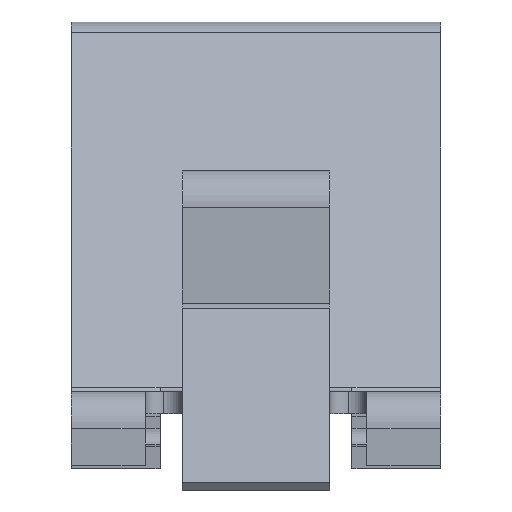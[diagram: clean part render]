
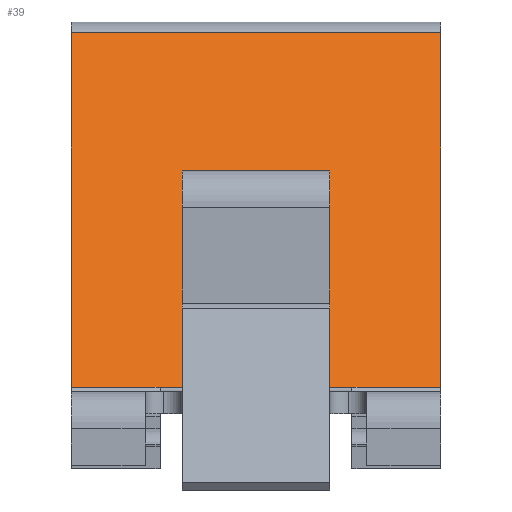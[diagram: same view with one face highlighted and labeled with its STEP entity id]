
A CAD part, left-side view. The second image highlights one B-rep face of the part: STEP entity #39.
In plain terms, the highlighted planar face has unit normal (-0.707, 0, 0.707).
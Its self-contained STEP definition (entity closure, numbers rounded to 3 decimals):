
#39 = ADVANCED_FACE ( 'NONE', ( #1943 ), #1057, .F. ) ;
#61 = LINE ( 'NONE', #2726, #3175 ) ;
#123 = AXIS2_PLACEMENT_3D ( 'NONE', #2031, #2887, #1014 ) ;
#282 = DIRECTION ( 'NONE',  ( -0.707, 0., -0.707 ) ) ;
#386 = EDGE_CURVE ( 'NONE', #2733, #1434, #2662, .T. ) ;
#443 = VERTEX_POINT ( 'NONE', #2687 ) ;
#541 = CARTESIAN_POINT ( 'NONE',  ( 48.724, 12.5, 24.309 ) ) ;
#546 = LINE ( 'NONE', #3162, #1963 ) ;
#567 = EDGE_CURVE ( 'NONE', #604, #2733, #2165, .T. ) ;
#604 = VERTEX_POINT ( 'NONE', #3101 ) ;
#625 = EDGE_LOOP ( 'NONE', ( #3331, #2349, #3159, #2612, #1752, #1305 ) ) ;
#783 = VECTOR ( 'NONE', #1228, 1000. ) ;
#824 = VECTOR ( 'NONE', #1486, 1000. ) ;
#977 = EDGE_CURVE ( 'NONE', #1818, #443, #1289, .T. ) ;
#1014 = DIRECTION ( 'NONE',  ( -0.707, 0., -0.707 ) ) ;
#1057 = PLANE ( 'NONE',  #123 ) ;
#1087 = DIRECTION ( 'NONE',  ( 0.707, 0., 0.707 ) ) ;
#1134 = EDGE_CURVE ( 'NONE', #1818, #3035, #61, .T. ) ;
#1228 = DIRECTION ( 'NONE',  ( 0., 1., 0. ) ) ;
#1289 = LINE ( 'NONE', #2512, #824 ) ;
#1305 = ORIENTED_EDGE ( 'NONE', *, *, #2160, .T. ) ;
#1434 = VERTEX_POINT ( 'NONE', #2255 ) ;
#1448 = DIRECTION ( 'NONE',  ( 0., -1., 0. ) ) ;
#1474 = CARTESIAN_POINT ( 'NONE',  ( 24.707, 12.5, 0.293 ) ) ;
#1486 = DIRECTION ( 'NONE',  ( 0., 1., 0. ) ) ;
#1742 = CARTESIAN_POINT ( 'NONE',  ( 48.724, 0., 24.309 ) ) ;
#1752 = ORIENTED_EDGE ( 'NONE', *, *, #386, .T. ) ;
#1818 = VERTEX_POINT ( 'NONE', #2196 ) ;
#1875 = VECTOR ( 'NONE', #3264, 1000. ) ;
#1943 = FACE_OUTER_BOUND ( 'NONE', #625, .T. ) ;
#1963 = VECTOR ( 'NONE', #1087, 1000. ) ;
#2031 = CARTESIAN_POINT ( 'NONE',  ( 12.414, 0., -12. ) ) ;
#2160 = EDGE_CURVE ( 'NONE', #1434, #443, #2207, .T. ) ;
#2165 = LINE ( 'NONE', #1742, #783 ) ;
#2196 = CARTESIAN_POINT ( 'NONE',  ( 24.707, -6.5, 0.293 ) ) ;
#2207 = LINE ( 'NONE', #1474, #1875 ) ;
#2255 = CARTESIAN_POINT ( 'NONE',  ( 24.707, 12.5, 0.293 ) ) ;
#2349 = ORIENTED_EDGE ( 'NONE', *, *, #1134, .T. ) ;
#2512 = CARTESIAN_POINT ( 'NONE',  ( 24.707, -6.5, 0.293 ) ) ;
#2584 = CARTESIAN_POINT ( 'NONE',  ( 48.724, 12.5, 24.309 ) ) ;
#2612 = ORIENTED_EDGE ( 'NONE', *, *, #567, .T. ) ;
#2662 = LINE ( 'NONE', #541, #2783 ) ;
#2687 = CARTESIAN_POINT ( 'NONE',  ( 24.707, 6.5, 0.293 ) ) ;
#2726 = CARTESIAN_POINT ( 'NONE',  ( 24.707, 12.5, 0.293 ) ) ;
#2733 = VERTEX_POINT ( 'NONE', #2584 ) ;
#2746 = CARTESIAN_POINT ( 'NONE',  ( 24.707, -12.5, 0.293 ) ) ;
#2783 = VECTOR ( 'NONE', #282, 1000. ) ;
#2887 = DIRECTION ( 'NONE',  ( 0.707, 0., -0.707 ) ) ;
#2915 = EDGE_CURVE ( 'NONE', #3035, #604, #546, .T. ) ;
#3035 = VERTEX_POINT ( 'NONE', #2746 ) ;
#3101 = CARTESIAN_POINT ( 'NONE',  ( 48.724, -12.5, 24.309 ) ) ;
#3159 = ORIENTED_EDGE ( 'NONE', *, *, #2915, .T. ) ;
#3162 = CARTESIAN_POINT ( 'NONE',  ( 48.724, -12.5, 24.309 ) ) ;
#3175 = VECTOR ( 'NONE', #1448, 1000. ) ;
#3264 = DIRECTION ( 'NONE',  ( 0., -1., 0. ) ) ;
#3331 = ORIENTED_EDGE ( 'NONE', *, *, #977, .F. ) ;
